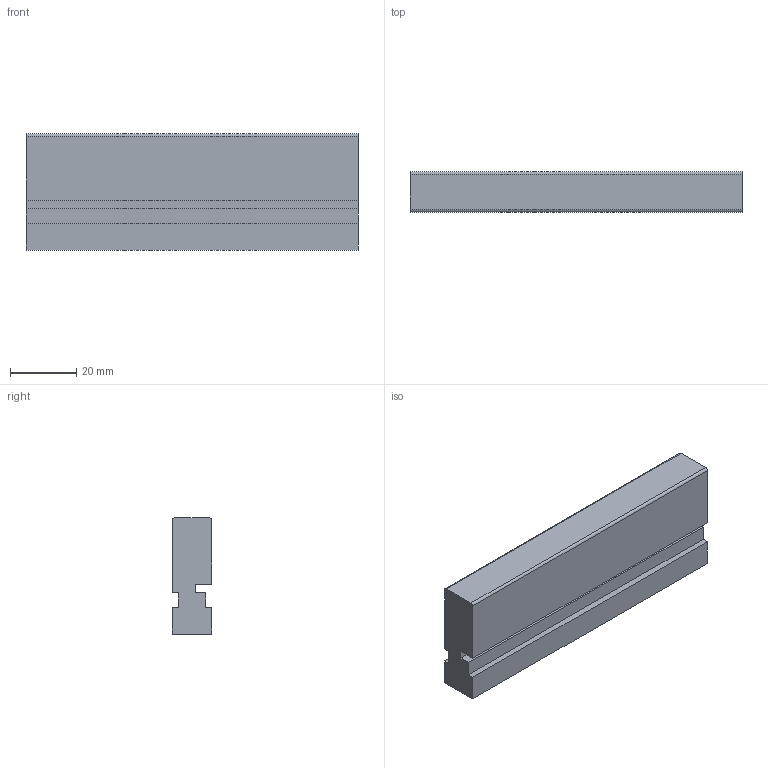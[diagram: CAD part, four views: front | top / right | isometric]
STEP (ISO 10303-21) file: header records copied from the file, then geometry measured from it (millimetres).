
FILE_DESCRIPTION (( 'STEP AP203' ), '1' );
FILE_NAME ('084.708.009.STEP', '2013-01-31T14:27:27', ( 'Alusic' ), ( 'Alusic' ), 'SwSTEP 2.0', 'SolidWorks 2011', '' );
FILE_SCHEMA (( 'CONFIG_CONTROL_DESIGN' ));
Length unit declared in the file: millimetre
Products named in the file (1): 084.708.009
Bounding box: 100 x 12 x 35 mm (x, y, z)
Volume: 39060.9 mm3; surface area: 11486.8 mm2
Topology: 1 solids, 1 shells, 18 faces, 48 edges, 32 vertices
Faces by surface type: plane 16, cylinder 2
Entity records: 633 total; most frequent: CARTESIAN_POINT 99, ORIENTED_EDGE 96, DIRECTION 90, EDGE_CURVE 48, VECTOR 44, LINE 44, VERTEX_POINT 32, AXIS2_PLACEMENT_3D 23
